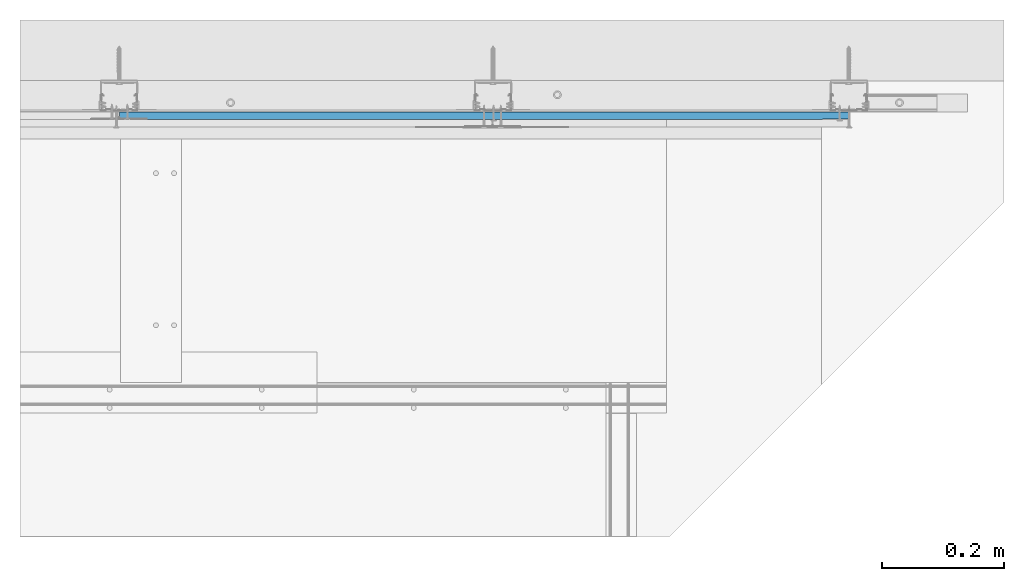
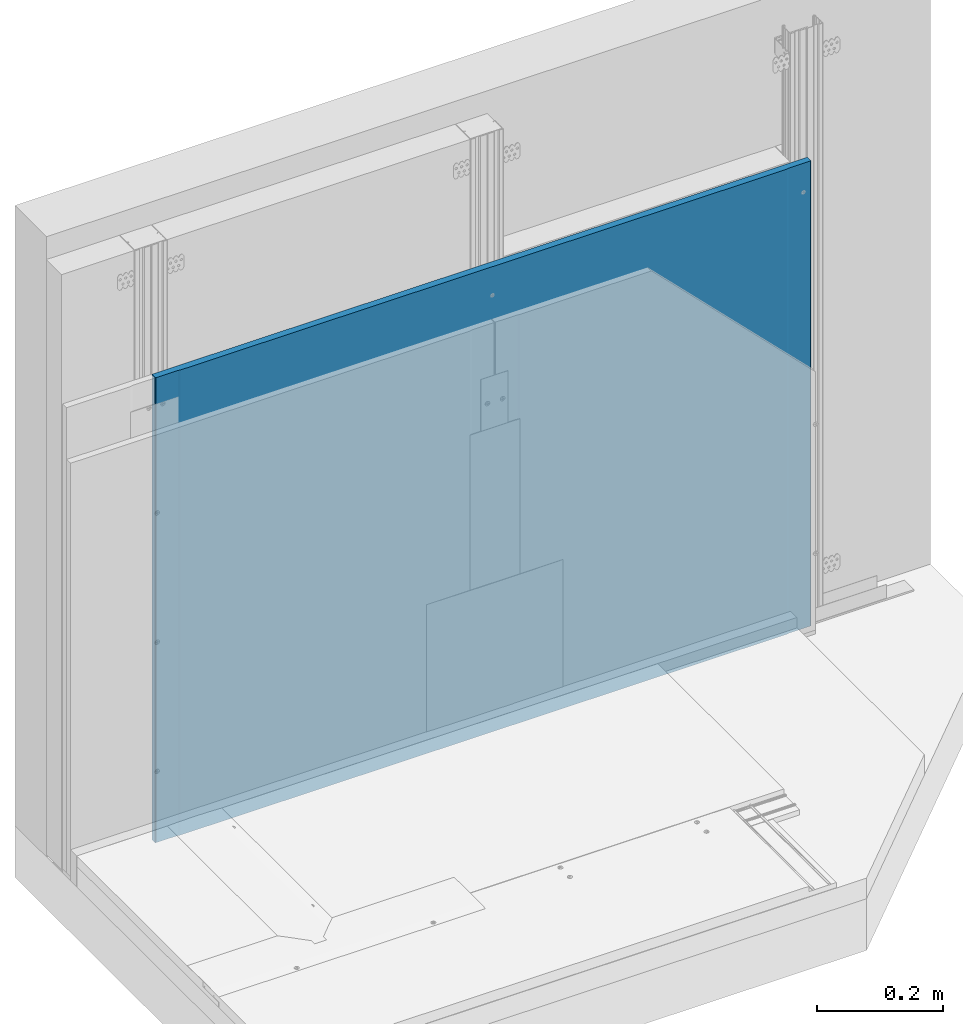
# One storey, part 14 of 47: 1 wall.
"""IFC2X3 building model written with IfcOpenShell, lengths in millimetres."""

from ifc_helpers import new_model, entity, si_unit, converted_unit, direction, frame, origin, origin_with_axes, place, context, project, spatial, faceted_brep, element, save


model = new_model("IFC2X3")

# Units and contexts
model_context = context("Model", 3, precision=1e-05, world=origin(), true_north=direction((0.0, 1.0, 0.0)))
ifc_project = project(units=[si_unit("LENGTHUNIT", "METRE", prefix="MILLI"), si_unit("AREAUNIT", "SQUARE_METRE"), si_unit("VOLUMEUNIT", "CUBIC_METRE"), converted_unit("PLANEANGLEUNIT", "DEGREE", entity("IfcPlaneAngleMeasure", 0.01745), si_unit("PLANEANGLEUNIT", "RADIAN"), dimensions=[0, 0, 0, 0, 0, 0, 0]), si_unit("SOLIDANGLEUNIT", "STERADIAN"), si_unit("MASSUNIT", "GRAM"), si_unit("TIMEUNIT", "SECOND"), si_unit("THERMODYNAMICTEMPERATUREUNIT", "DEGREE_CELSIUS"), si_unit("LUMINOUSINTENSITYUNIT", "LUMEN")], contexts=[model_context])

# Site, building, storey
site_placement = place(None, origin_with_axes())
site = spatial("IfcSite", under=ifc_project, at=site_placement, Name="Default Site", CompositionType="ELEMENT")
building_placement = place(site_placement, origin_with_axes())
building = spatial("IfcBuilding", under=site, at=building_placement, Name="Default Building", CompositionType="ELEMENT")
storey_placement = place(building_placement, origin_with_axes())
storey = spatial("IfcBuildingStorey", under=building, at=storey_placement, Name="Default Building Storey", CompositionType="ELEMENT", Elevation=0.0)

# Wall
wall_placement = place(storey_placement, frame((2288.4296487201, 1971.180077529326, 1159.999999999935), z_axis=(0.0, 0.0, 1.0), x_axis=(1.0, 0.0, 0.0)))
element("IfcWall", 1, at=wall_placement, inside=storey, Name="Płyta gipsowo-kartonowa RIGIPS PRO (4PRO™)", context=model_context, shape_type="Brep", body=[
    faceted_brep([(1199.866025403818, -10.99999999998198, -249.9999999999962), (1199.965925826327, -10.75881904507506, -249.9999999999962), (1199.965925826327, -10.75881904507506, -1150.001581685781), (1199.866025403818, -10.99999999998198, -1150.001581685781), (1199.707106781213, -11.20710678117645, -249.9999999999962), (1199.707106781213, -11.20710678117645, -1150.001581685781), (1199.50000000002, -11.36602540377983, -249.9999999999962), (1199.50000000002, -11.36602540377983, -1150.001581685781), (1199.258819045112, -11.46592582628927, -249.9999999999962), (1199.258819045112, -11.46592582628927, -1150.001581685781), (1199.0, -11.50000000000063, -249.9999999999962), (1199.0, -11.50000000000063, -1150.001581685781), (1158.999999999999, -11.50000000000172, -249.9999999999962), (1158.999999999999, -11.50000000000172, -1150.001581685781), (1155.000000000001, -12.49999999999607, -249.9999999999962), (1155.000000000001, -12.49999999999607, -1150.001581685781), (44.99999999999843, -12.50000000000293, -249.9999999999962), (44.99999999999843, -12.50000000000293, -1150.001581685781), (40.99999999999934, -11.50000000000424, -249.9999999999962), (40.99999999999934, -11.50000000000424, -1150.001581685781), (0.9999999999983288, -11.5000000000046, -249.9999999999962), (0.9999999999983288, -11.5000000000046, -1150.001581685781), (0.7411809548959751, -11.46592582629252, -249.9999999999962), (0.7411809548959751, -11.46592582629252, -1150.001581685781), (0.4999999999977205, -11.3660254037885, -249.9999999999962), (0.4999999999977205, -11.3660254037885, -1150.001581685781), (0.29289321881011, -11.20710678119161, -249.9999999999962), (0.29289321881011, -11.20710678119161, -1150.001581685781), (0.1339745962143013, -11.00000000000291, -249.9999999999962), (0.1339745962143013, -11.00000000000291, -1150.001581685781), (0.03407417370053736, -10.7588190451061, -249.9999999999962), (0.03407417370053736, -10.7588190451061, -1150.001581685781), (-2.887645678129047e-12, -10.50000000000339, -249.9999999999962), (-2.887645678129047e-12, -10.50000000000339, -1150.001581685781), (0.0, 0.0, -249.9999999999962), (0.0, 0.0, -1150.001581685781), (1200.0, 0.0, -249.9999999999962), (1200.0, 0.0, -1150.001581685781), (1200.000000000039, -10.49999999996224, -249.9999999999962), (1200.000000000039, -10.49999999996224, -1150.001581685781)], [[[0, 1, 2, 3]], [[4, 0, 3, 5]], [[6, 4, 5, 7]], [[8, 6, 7, 9]], [[10, 8, 9, 11]], [[12, 10, 11, 13]], [[14, 12, 13, 15]], [[16, 14, 15, 17]], [[18, 16, 17, 19]], [[20, 18, 19, 21]], [[22, 20, 21, 23]], [[24, 22, 23, 25]], [[26, 24, 25, 27]], [[28, 26, 27, 29]], [[30, 28, 29, 31]], [[32, 30, 31, 33]], [[34, 32, 33, 35]], [[36, 34, 35, 37]], [[38, 36, 37, 39]], [[1, 38, 39, 2]], [[2, 39, 37, 35, 33, 31, 29, 27, 25, 23, 21, 19, 17, 15, 13, 11, 9, 7, 5, 3]], [[12, 14, 16, 18, 20, 22, 24, 26, 28, 30, 32, 34, 36, 38, 1, 0, 4, 6, 8, 10]]]),
])

save(model, "model.ifc")
